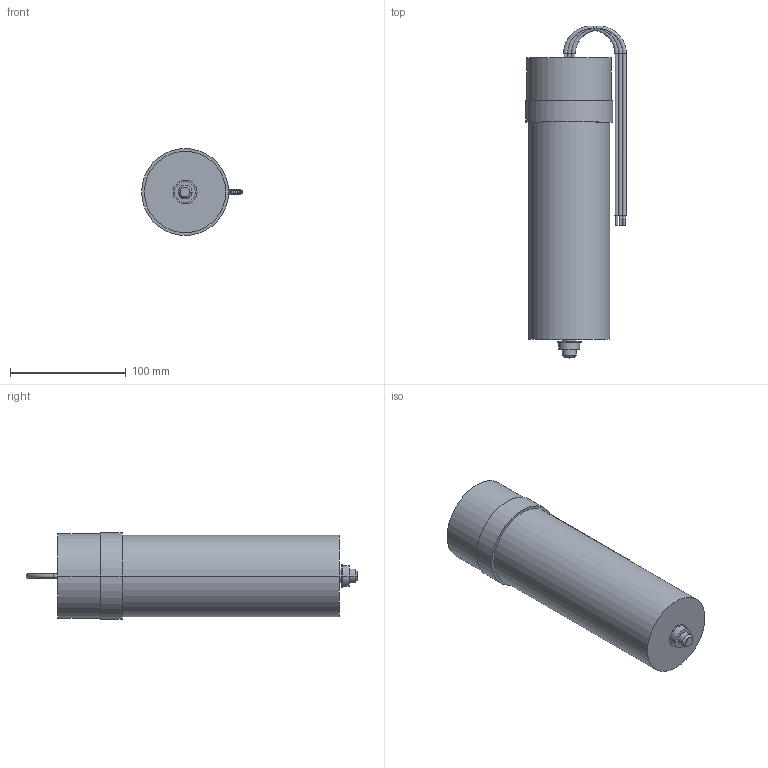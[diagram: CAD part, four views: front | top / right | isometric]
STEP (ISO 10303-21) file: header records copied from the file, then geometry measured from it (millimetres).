
FILE_DESCRIPTION((''),'2;1');
FILE_NAME('1701160865827_ASM','2023-11-28T14:11:38',('SESA644935'),('Schneider-Electric'),'CREO PARAMETRIC BY PTC INC, 2021284','CREO PARAMETRIC BY PTC INC, 2021284','');
FILE_SCHEMA(('AP242_MANAGED_MODEL_BASED_3D_ENGINEERING_MIM_LF { 1 0 10303 442 1 1 4 }'));
Length unit declared in the file: millimetre
Products named in the file (4): EMPTYNODE_1701160865847_ASM; BLRCH060A072B57-SIMPLIFICATION; BLRCH060A072B57-3D_ASM; 1701160865827_ASM
Assembly tree (3 placements, depth 3):
  1701160865827_ASM
    EMPTYNODE_1701160865847_ASM
    BLRCH060A072B57-3D_ASM
      BLRCH060A072B57-SIMPLIFICATION
Bounding box: 86.85 x 286.35 x 75 mm (x, y, z)
Volume: 963643.1 mm3; surface area: 72133 mm2
Topology: 2 solids, 2 shells, 62 faces, 126 edges, 78 vertices
Faces by surface type: cylinder 32, plane 14, torus 14, cone 2
Entity records: 2338 total; most frequent: CARTESIAN_POINT 437, DIRECTION 306, ORIENTED_EDGE 252, AXIS2_PLACEMENT_3D 136, EDGE_CURVE 126, VERTEX_POINT 78, EDGE_LOOP 72, CIRCLE 66
